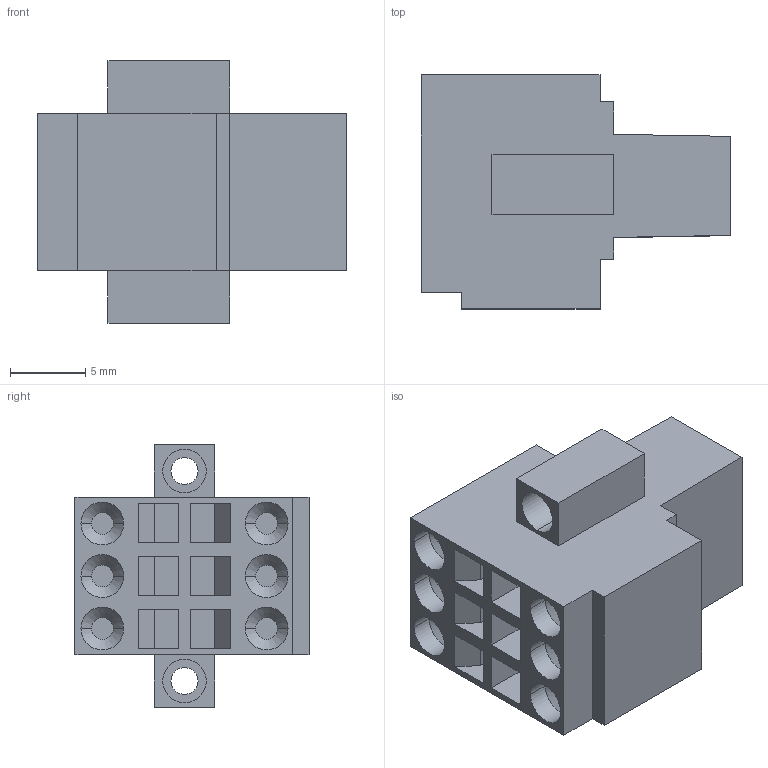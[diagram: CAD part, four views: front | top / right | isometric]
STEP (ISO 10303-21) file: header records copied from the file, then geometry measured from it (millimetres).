
FILE_DESCRIPTION((''),'2;1');
FILE_NAME('CONN_CRIO_6_POS_WEID','2007-01-25T',('chrisj'),(''),'PRO/ENGINEER BY PARAMETRIC TECHNOLOGY CORPORATION, 2006080','PRO/ENGINEER BY PARAMETRIC TECHNOLOGY CORPORATION, 2006080','');
FILE_SCHEMA(('AUTOMOTIVE_DESIGN_CC2 { 1 2 10303 214 -1 1 5 2 }'));
Length unit declared in the file: inch
Products named in the file (1): CONN_CRIO_6_POS_WEID
Bounding box: 20.6 x 15.6 x 17.5 mm (x, y, z)
Volume: 2537 mm3; surface area: 1816.2 mm2
Topology: 1 solids, 1 shells, 174 faces, 396 edges, 248 vertices
Faces by surface type: plane 126, cylinder 36, cone 12
Entity records: 4840 total; most frequent: CARTESIAN_POINT 818, DIRECTION 816, ORIENTED_EDGE 792, EDGE_CURVE 396, VECTOR 324, LINE 324, VERTEX_POINT 248, AXIS2_PLACEMENT_3D 246
